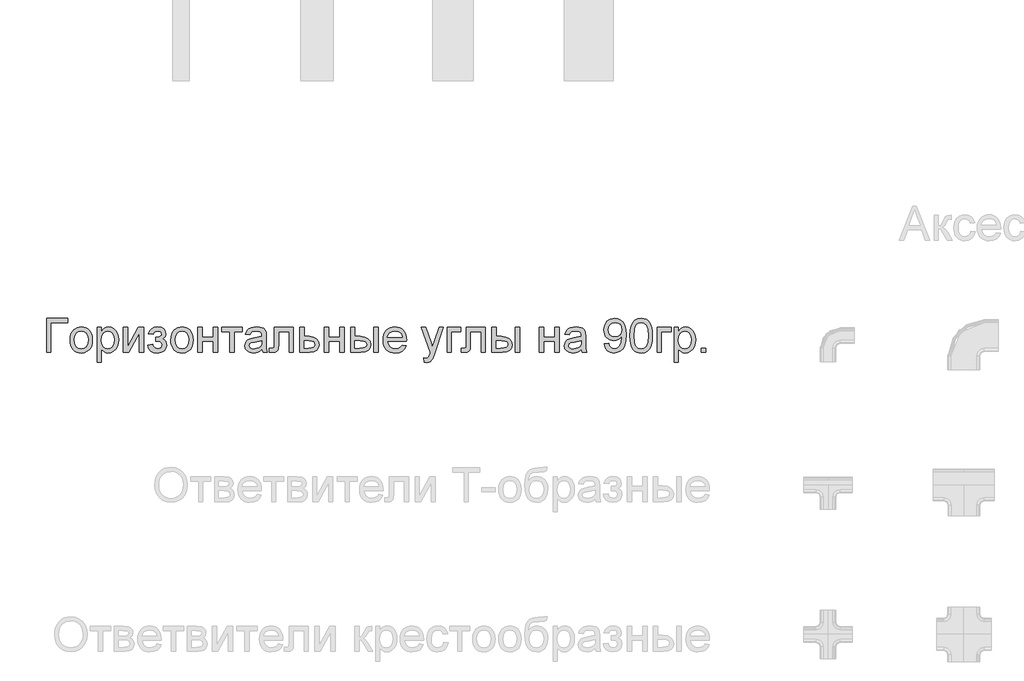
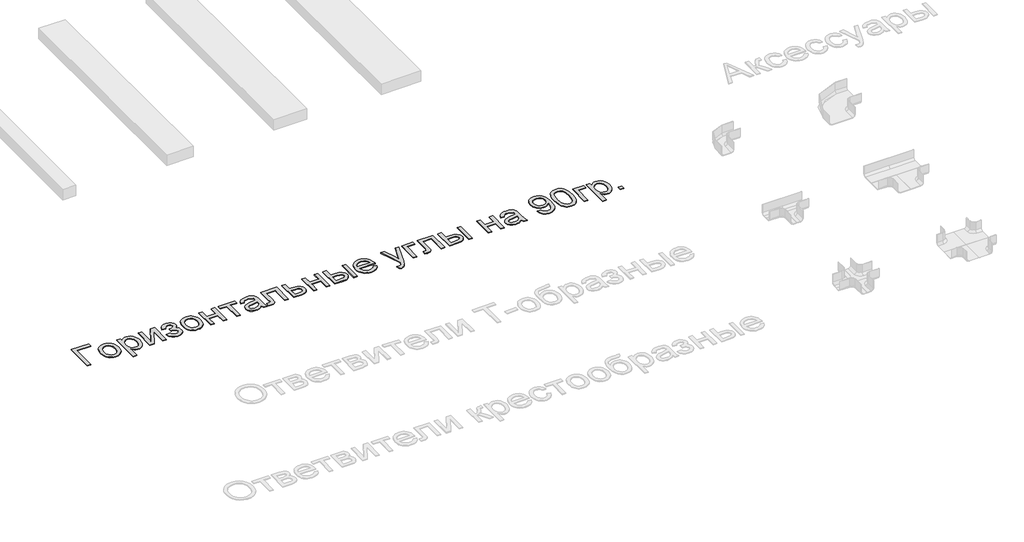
# One storey, part 7 of 11: 1 proxy.
"""IFC4 building model written with IfcOpenShell, lengths in millimetres."""

from ifc_helpers import new_model, si_unit, origin, origin_with_axes, place, context, project, spatial, polyline, outline, extrude, element, save

model = new_model("IFC4")

# Units and contexts
model_context = context("Model", 3, world=origin())
ifc_project = project(units=[si_unit("LENGTHUNIT", "METRE", prefix="MILLI")], contexts=[model_context])

# Site, building, storey
site = spatial("IfcSite", under=ifc_project)
building = spatial("IfcBuilding", under=site)
storey = spatial("IfcBuildingStorey", under=building, Name="Этаж 01", Elevation=0.0)

# Proxy
placement = place(None, origin())
element("IfcBuildingElementProxy", 1, Name="АБН_Маленькая надпись", ObjectType="АБН_Маленькая надпись", at=placement, inside=storey, context=model_context, shape_type="SweptSolid", body=[
    extrude(outline(polyline([(-19468.2542371, 7032.6703326), (-19311.2912525, 7032.6703326), (-19311.2912525, 7001.2777357), (-19436.8616402, 7001.2777357), (-19436.8616402, 6781.5295573), (-19468.2542371, 6781.5295573), (-19468.2542371, 7032.6703326)])), origin_with_axes(), (0.0, 0.0, 1.0), 5.0),
    extrude(outline(polyline([(-19295.5949541, 6873.7453107), (-19293.8973319, 6897.6308157), (-19288.8044656, 6918.2130469), (-19280.3163549, 6935.4920044), (-19268.4330001, 6949.4676881), (-19243.2637402, 6964.7807761), (-19213.1280735, 6969.8851388), (-19195.8088789, 6968.3312206), (-19180.1489854, 6963.6694659), (-19166.1483931, 6955.8998748), (-19153.8071017, 6945.0224473), (-19143.7344161, 6931.4050653), (-19136.5396406, 6915.4156109), (-19132.2227753, 6897.054084), (-19130.7838202, 6876.3204847), (-19133.3283373, 6844.605991), (-19140.9618887, 6820.4637351), (-19153.4622124, 6802.3838679), (-19170.6070462, 6788.8565403), (-19190.9708475, 6780.4182471), (-19213.1280735, 6777.6054827), (-19230.7001869, 6779.1536527), (-19246.5057003, 6783.7981629), (-19260.5446138, 6791.5390132), (-19272.8169272, 6802.3762037), (-19282.7823139, 6816.1257932), (-19289.9004473, 6832.6038409), (-19294.1713274, 6851.8103468), (-19295.5949541, 6873.7453107)]), holes=[polyline([(-19264.2023571, 6873.8066244), (-19260.5695224, 6845.3954045), (-19249.6710183, 6825.1542305), (-19233.2696127, 6813.0371173), (-19213.1280735, 6808.9980796), (-19193.0785047, 6813.0601099), (-19176.7077559, 6825.246201), (-19165.8092518, 6845.7556223), (-19162.1764171, 6874.7876431), (-19165.8322445, 6902.3711285), (-19176.7997264, 6922.3363909), (-19193.1934679, 6934.4535041), (-19213.1280735, 6938.4925419), (-19233.2696127, 6934.4688326), (-19249.6710183, 6922.3977046), (-19260.5695224, 6902.2025159), (-19264.2023571, 6873.8066244)])]), origin_with_axes(), (0.0, 0.0, 1.0), 5.0),
    extrude(outline(polyline([(-19095.4671487, 6710.8962142), (-19095.4671487, 6965.9610642), (-19064.0745518, 6965.9610642), (-19064.0745518, 6935.1816039), (-19053.8351696, 6950.3644004), (-19042.369514, 6961.2092551), (-19029.0031349, 6967.7161679), (-19013.0615818, 6969.8851388), (-18991.831725, 6966.8501123), (-18973.2690126, 6957.745033), (-18958.155194, 6943.1217237), (-18947.2720183, 6923.5320074), (-18940.6961276, 6900.401427), (-18938.5041641, 6875.155525), (-18940.9797033, 6848.3078036), (-18948.4063211, 6824.2958392), (-18960.5464269, 6804.338241), (-18977.1624304, 6789.653618), (-18996.5145562, 6780.6175165), (-19016.863029, 6777.6054827), (-19031.2947331, 6779.6211694), (-19044.1782672, 6785.6682297), (-19064.0745518, 6806.0550236), (-19064.0745518, 6710.8962142), (-19095.4671487, 6710.8962142)]), holes=[polyline([(-19064.0745518, 6872.2737828), (-19060.6793075, 6844.1308101), (-19050.4935748, 6824.4491234), (-19035.4640624, 6812.8608405), (-19017.5374794, 6808.9980796), (-18999.3196564, 6812.9987963), (-18983.9069336, 6825.0009464), (-18973.3993042, 6845.4030687), (-18969.896761, 6874.6037021), (-18973.3149979, 6902.5933905), (-18983.5697085, 6922.5509888), (-18998.5762282, 6934.5071536), (-19016.2498924, 6938.4925419), (-19033.9925344, 6934.2542347), (-19049.5738698, 6921.5393133), (-19060.4493813, 6900.7463163), (-19064.0745518, 6872.2737828)])]), origin_with_axes(), (0.0, 0.0, 1.0), 5.0),
    extrude(outline(polyline([(-18903.1874925, 6965.9610642), (-18871.7948956, 6965.9610642), (-18871.7948956, 6825.3075147), (-18794.662304, 6965.9610642), (-18754.0726572, 6965.9610642), (-18754.0726572, 6781.5295573), (-18785.4652541, 6781.5295573), (-18785.4652541, 6921.3247154), (-18862.1073364, 6781.5295573), (-18903.1874925, 6781.5295573), (-18903.1874925, 6965.9610642)])), origin_with_axes(), (0.0, 0.0, 1.0), 5.0),
    extrude(outline(polyline([(-18663.818941, 6863.9351242), (-18663.818941, 6895.3277211), (-18639.04822, 6896.5539944), (-18626.5402322, 6903.0838998), (-18622.1256482, 6909.2076022), (-18620.6541202, 6916.7261905), (-18622.6238218, 6925.6549931), (-18628.5329263, 6932.5757731), (-18637.5536994, 6937.0133497), (-18648.8584065, 6938.4925419), (-18660.285741, 6937.0210139), (-18669.8583371, 6932.60643), (-18677.5761948, 6925.2487901), (-18683.4393141, 6914.9480942), (-18718.7559856, 6918.8721688), (-18709.3903232, 6941.1903432), (-18695.1502243, 6957.1318963), (-18676.0356889, 6966.6968282), (-18652.0467172, 6969.8851388), (-18625.8044682, 6965.9993852), (-18605.9388404, 6954.3421245), (-18593.4308526, 6937.2892612), (-18589.2615233, 6917.2166998), (-18595.1936205, 6897.7189541), (-18612.989912, 6882.6357923), (-18600.8727988, 6873.9139233), (-18592.2352361, 6863.0767329), (-18587.0618956, 6850.0935641), (-18585.3374487, 6834.9337602), (-18589.7137116, 6811.8261724), (-18602.8425003, 6793.516379), (-18623.8347667, 6781.5832067), (-18651.8014625, 6777.6054827), (-18679.1550217, 6781.2843026), (-18700.0859744, 6792.3207625), (-18714.5943205, 6810.7148622), (-18722.6800602, 6836.4666019), (-18687.3633887, 6840.3906765), (-18682.075085, 6827.1162678), (-18673.1999319, 6817.2141108), (-18661.7649332, 6811.0520874), (-18648.7970929, 6808.9980796), (-18636.1664777, 6810.9677811), (-18625.8657818, 6816.8768856), (-18619.0139797, 6825.8516735), (-18616.7300456, 6837.0184249), (-18622.4015597, 6853.511801), (-18634.4803519, 6862.3409689), (-18657.6875744, 6864.1190652), (-18663.818941, 6863.9351242)])), origin_with_axes(), (0.0, 0.0, 1.0), 5.0),
    extrude(outline(polyline([(-18553.9448518, 6873.7453107), (-18552.2472297, 6897.6308157), (-18547.1543633, 6918.2130469), (-18538.6662527, 6935.4920044), (-18526.7828978, 6949.4676881), (-18501.613638, 6964.7807761), (-18471.4779712, 6969.8851388), (-18454.1587766, 6968.3312206), (-18438.4988832, 6963.6694659), (-18424.4982908, 6955.8998748), (-18412.1569995, 6945.0224473), (-18402.0843138, 6931.4050653), (-18394.8895383, 6915.4156109), (-18390.572673, 6897.054084), (-18389.1337179, 6876.3204847), (-18391.6782351, 6844.605991), (-18399.3117865, 6820.4637351), (-18411.8121101, 6802.3838679), (-18428.9569439, 6788.8565403), (-18449.3207452, 6780.4182471), (-18471.4779712, 6777.6054827), (-18489.0500846, 6779.1536527), (-18504.855598, 6783.7981629), (-18518.8945115, 6791.5390132), (-18531.1668249, 6802.3762037), (-18541.1322117, 6816.1257932), (-18548.2503451, 6832.6038409), (-18552.5212251, 6851.8103468), (-18553.9448518, 6873.7453107)]), holes=[polyline([(-18522.5522549, 6873.8066244), (-18518.9194202, 6845.3954045), (-18508.020916, 6825.1542305), (-18491.6195104, 6813.0371173), (-18471.4779712, 6808.9980796), (-18451.4284025, 6813.0601099), (-18435.0576537, 6825.246201), (-18424.1591496, 6845.7556223), (-18420.5263149, 6874.7876431), (-18424.1821422, 6902.3711285), (-18435.1496242, 6922.3363909), (-18451.5433656, 6934.4535041), (-18471.4779712, 6938.4925419), (-18491.6195104, 6934.4688326), (-18508.020916, 6922.3977046), (-18518.9194202, 6902.2025159), (-18522.5522549, 6873.8066244)])]), origin_with_axes(), (0.0, 0.0, 1.0), 5.0),
    extrude(outline(polyline([(-18353.8170464, 6965.9610642), (-18322.4244495, 6965.9610642), (-18322.4244495, 6895.3277211), (-18240.0188826, 6895.3277211), (-18240.0188826, 6965.9610642), (-18208.6262856, 6965.9610642), (-18208.6262856, 6781.5295573), (-18240.0188826, 6781.5295573), (-18240.0188826, 6863.9351242), (-18322.4244495, 6863.9351242), (-18322.4244495, 6781.5295573), (-18353.8170464, 6781.5295573), (-18353.8170464, 6965.9610642)])), origin_with_axes(), (0.0, 0.0, 1.0), 5.0),
    extrude(outline(polyline([(-18177.2336887, 6965.9610642), (-18028.1188533, 6965.9610642), (-18028.1188533, 6934.5684673), (-18086.9799726, 6934.5684673), (-18086.9799726, 6781.5295573), (-18118.3725695, 6781.5295573), (-18118.3725695, 6934.5684673), (-18177.2336887, 6934.5684673), (-18177.2336887, 6965.9610642)])), origin_with_axes(), (0.0, 0.0, 1.0), 5.0),
    extrude(outline(polyline([(-17882.9280926, 6805.074005), (-17897.9269481, 6792.2134636), (-17913.3703277, 6783.7981629), (-17929.6107849, 6779.1536527), (-17947.0008734, 6777.6054827), (-17973.2354582, 6781.3302879), (-17992.587584, 6792.5047035), (-18004.5207562, 6809.4732605), (-18008.4984803, 6830.58049), (-18006.9962954, 6843.5943155), (-18002.489741, 6855.4125246), (-17986.701472, 6873.4387424), (-17964.7205228, 6883.7394383), (-17937.5585689, 6888.4605905), (-17883.1120336, 6899.2517957), (-17882.9280926, 6906.2415536), (-17885.0893993, 6920.2517263), (-17891.5733195, 6929.4181193), (-17906.0740014, 6936.2239362), (-17926.2768543, 6938.4925419), (-17944.9775224, 6936.9826929), (-17958.0373333, 6932.4531458), (-17966.9431432, 6924.0761662), (-17973.1818087, 6911.0240196), (-18004.5744056, 6914.9480942), (-17999.1251536, 6932.1159206), (-17990.9934287, 6945.6049271), (-17979.4204742, 6955.9209514), (-17963.6475337, 6963.5698312), (-17944.3567216, 6968.3063119), (-17922.2301524, 6969.8851388), (-17901.0079598, 6968.4902529), (-17884.1850227, 6964.3055952), (-17871.5007581, 6958.0132803), (-17862.6945828, 6950.2954226), (-17853.0683373, 6928.9889237), (-17851.5354957, 6901.5204014), (-17851.5354957, 6862.4635962), (-17849.9413403, 6807.9250904), (-17843.6873464, 6781.5295573), (-17875.0799433, 6781.5295573), (-17882.9280926, 6805.074005)]), holes=[polyline([(-17882.9280926, 6867.8591988), (-17933.5731806, 6858.2329533), (-17960.5818504, 6853.143919), (-17972.8139267, 6844.8665741), (-17977.1058833, 6832.7877819), (-17974.7682998, 6823.4527763), (-17967.7555493, 6815.8038965), (-17956.2209159, 6810.6995338), (-17940.3176838, 6808.9980796), (-17923.4564257, 6810.8758106), (-17908.5572049, 6816.5090036), (-17896.4784127, 6824.8093412), (-17888.0784405, 6834.6885056), (-17884.3536353, 6844.8665741), (-17883.1120336, 6858.9687173), (-17882.9280926, 6867.8591988)])]), origin_with_axes(), (0.0, 0.0, 1.0), 5.0),
    extrude(outline(polyline([(-17792.6743764, 6965.9610642), (-17651.4076903, 6965.9610642), (-17651.4076903, 6781.7134983), (-17682.8002872, 6781.7134983), (-17682.8002872, 6934.5684673), (-17761.2817795, 6934.5684673), (-17761.2817795, 6846.5833568), (-17763.397101, 6805.99371), (-17767.3594966, 6796.8043243), (-17775.0160407, 6788.8565403), (-17786.6349803, 6783.361303), (-17802.484563, 6781.5295573), (-17827.991048, 6783.1237126), (-17827.991048, 6812.9221542), (-17813.9502185, 6812.9221542), (-17799.7561048, 6814.8535347), (-17794.0845907, 6820.9849013), (-17792.6743764, 6848.3614531), (-17792.6743764, 6965.9610642)])), origin_with_axes(), (0.0, 0.0, 1.0), 5.0),
    extrude(outline(polyline([(-17604.3187949, 6965.9610642), (-17572.926198, 6965.9610642), (-17572.926198, 6899.2517957), (-17536.7511351, 6899.2517957), (-17505.389195, 6895.3200569), (-17482.1819725, 6883.5248404), (-17467.8345747, 6864.8165081), (-17463.0521087, 6840.1454218), (-17467.1218033, 6817.6816275), (-17479.330887, 6798.7280405), (-17500.491766, 6785.8291781), (-17531.4168462, 6781.5295573), (-17604.3187949, 6781.5295573), (-17604.3187949, 6965.9610642)]), holes=[polyline([(-17572.926198, 6812.9221542), (-17543.6182657, 6812.9221542), (-17520.8785599, 6814.569959), (-17505.757077, 6819.5133733), (-17497.2727985, 6827.9516665), (-17494.4447057, 6840.0841082), (-17496.5370345, 6850.3388188), (-17502.8140211, 6859.3979129), (-17516.2647065, 6865.7438773), (-17539.8781321, 6867.8591988), (-17572.926198, 6867.8591988), (-17572.926198, 6812.9221542)])]), origin_with_axes(), (0.0, 0.0, 1.0), 5.0),
    extrude(outline(polyline([(-17423.8113626, 6965.9610642), (-17392.4187657, 6965.9610642), (-17392.4187657, 6895.3277211), (-17310.0131988, 6895.3277211), (-17310.0131988, 6965.9610642), (-17278.6206018, 6965.9610642), (-17278.6206018, 6781.5295573), (-17310.0131988, 6781.5295573), (-17310.0131988, 6863.9351242), (-17392.4187657, 6863.9351242), (-17392.4187657, 6781.5295573), (-17423.8113626, 6781.5295573), (-17423.8113626, 6965.9610642)])), origin_with_axes(), (0.0, 0.0, 1.0), 5.0),
    extrude(outline(polyline([(-17058.8724234, 6965.9610642), (-17027.4798265, 6965.9610642), (-17027.4798265, 6781.5295573), (-17058.8724234, 6781.5295573), (-17058.8724234, 6965.9610642)])), origin_with_axes(), (0.0, 0.0, 1.0), 5.0),
    extrude(outline(polyline([(-17231.5317064, 6965.9610642), (-17200.1391095, 6965.9610642), (-17200.1391095, 6899.2517957), (-17161.327559, 6899.2517957), (-17127.7813196, 6895.3200569), (-17102.9262923, 6883.5248404), (-17087.5442264, 6864.8165081), (-17082.4168711, 6840.1454218), (-17086.7164919, 6817.6816275), (-17099.6153543, 6798.7280405), (-17121.9565213, 6785.8291781), (-17154.5830558, 6781.5295573), (-17231.5317064, 6781.5295573), (-17231.5317064, 6965.9610642)]), holes=[polyline([(-17200.1391095, 6812.9221542), (-17167.8881213, 6812.9221542), (-17142.887474, 6814.569959), (-17126.2561422, 6819.5133733), (-17116.9211365, 6827.9516665), (-17113.809468, 6840.0841082), (-17116.1163947, 6850.3388188), (-17123.0371747, 6859.3979129), (-17137.8367608, 6865.7438773), (-17163.7801057, 6867.8591988), (-17200.1391095, 6867.8591988), (-17200.1391095, 6812.9221542)])]), origin_with_axes(), (0.0, 0.0, 1.0), 5.0),
    extrude(outline(polyline([(-16851.2643508, 6836.4666019), (-16820.4848905, 6832.5425273), (-16831.5749998, 6809.3506332), (-16849.2716566, 6792.0141941), (-16873.1763221, 6781.2076605), (-16902.8904574, 6777.6054827), (-16922.3690426, 6779.1594009), (-16939.7246422, 6783.8211555), (-16954.9572561, 6791.5907466), (-16968.0668842, 6802.4681742), (-16978.6090027, 6816.1507019), (-16986.1390872, 6832.3355937), (-16990.657138, 6851.0228494), (-16992.1631549, 6872.2124691), (-16990.6418096, 6894.1206083), (-16986.0777736, 6913.430581), (-16978.4710469, 6930.142387), (-16967.8216296, 6944.2560265), (-16954.7464903, 6955.4687631), (-16939.8625979, 6963.4778607), (-16923.1699524, 6968.2833193), (-16904.6685537, 6969.8851388), (-16886.7630472, 6968.2871514), (-16870.5704913, 6963.4931891), (-16856.0908859, 6955.5032521), (-16843.324231, 6944.3173401), (-16832.9028239, 6930.2343575), (-16825.4589616, 6913.5532083), (-16820.9926443, 6894.2738925), (-16819.5038718, 6872.3964101), (-16819.6878128, 6863.9351242), (-16960.770558, 6863.9351242), (-16955.3366344, 6840.4366618), (-16942.7136834, 6823.1615364), (-16924.4958604, 6812.5389438), (-16902.2773208, 6808.9980796), (-16885.5693468, 6810.6382201), (-16871.4978605, 6815.5586418), (-16860.0628618, 6824.065913), (-16851.2643508, 6836.4666019)]), holes=[polyline([(-16960.770558, 6895.3277211), (-16850.8964688, 6895.3277211), (-16855.1424401, 6911.9130677), (-16863.4657703, 6923.7772621), (-16881.7678995, 6934.8137219), (-16904.7911811, 6938.4925419), (-16925.95206, 6935.5571501), (-16943.4494474, 6926.7509749), (-16955.6125459, 6913.0243779), (-16960.770558, 6895.3277211)])]), origin_with_axes(), (0.0, 0.0, 1.0), 5.0),
    extrude(outline(polyline([(-16690.0094095, 6710.8962142), (-16693.9334842, 6741.1238515), (-16677.991931, 6738.3647365), (-16663.0927102, 6741.8289586), (-16653.956974, 6751.485861), (-16645.3730608, 6774.601113), (-16642.9205142, 6782.2040076), (-16709.6297826, 6965.9610642), (-16676.5204031, 6965.9610642), (-16641.1424179, 6863.5672422), (-16628.818371, 6822.6097134), (-16616.4943242, 6858.7847763), (-16580.1353203, 6965.9610642), (-16547.2711954, 6965.9610642), (-16611.4666036, 6777.1149733), (-16628.1439207, 6736.1574445), (-16636.6818487, 6723.0823053), (-16646.3540795, 6714.0232112), (-16657.5898087, 6708.7349075), (-16670.8182321, 6706.9721396), (-16690.0094095, 6710.8962142)])), origin_with_axes(), (0.0, 0.0, 1.0), 5.0),
    extrude(outline(polyline([(-16521.2742011, 6965.9610642), (-16419.2482611, 6965.9610642), (-16419.2482611, 6934.5684673), (-16489.8816042, 6934.5684673), (-16489.8816042, 6781.5295573), (-16521.2742011, 6781.5295573), (-16521.2742011, 6965.9610642)])), origin_with_axes(), (0.0, 0.0, 1.0), 5.0),
    extrude(outline(polyline([(-16380.0075149, 6965.9610642), (-16238.7408288, 6965.9610642), (-16238.7408288, 6781.7134983), (-16270.1334257, 6781.7134983), (-16270.1334257, 6934.5684673), (-16348.614918, 6934.5684673), (-16348.614918, 6846.5833568), (-16350.7302395, 6805.99371), (-16354.6926352, 6796.8043243), (-16362.3491792, 6788.8565403), (-16373.9681189, 6783.361303), (-16389.8177015, 6781.5295573), (-16415.3241865, 6783.1237126), (-16415.3241865, 6812.9221542), (-16401.283357, 6812.9221542), (-16387.0892434, 6814.8535347), (-16381.4177293, 6820.9849013), (-16380.0075149, 6848.3614531), (-16380.0075149, 6965.9610642)])), origin_with_axes(), (0.0, 0.0, 1.0), 5.0),
    extrude(outline(polyline([(-16018.9926503, 6965.9610642), (-15987.6000534, 6965.9610642), (-15987.6000534, 6781.5295573), (-16018.9926503, 6781.5295573), (-16018.9926503, 6965.9610642)])), origin_with_axes(), (0.0, 0.0, 1.0), 5.0),
    extrude(outline(polyline([(-16191.6519334, 6965.9610642), (-16160.2593365, 6965.9610642), (-16160.2593365, 6899.2517957), (-16121.447786, 6899.2517957), (-16087.9015466, 6895.3200569), (-16063.0465193, 6883.5248404), (-16047.6644533, 6864.8165081), (-16042.537098, 6840.1454218), (-16046.8367189, 6817.6816275), (-16059.7355813, 6798.7280405), (-16082.0767483, 6785.8291781), (-16114.7032828, 6781.5295573), (-16191.6519334, 6781.5295573), (-16191.6519334, 6965.9610642)]), holes=[polyline([(-16160.2593365, 6812.9221542), (-16128.0083482, 6812.9221542), (-16103.007701, 6814.569959), (-16086.3763691, 6819.5133733), (-16077.0413635, 6827.9516665), (-16073.929695, 6840.0841082), (-16076.2366216, 6850.3388188), (-16083.1574017, 6859.3979129), (-16097.9569878, 6865.7438773), (-16123.9003326, 6867.8591988), (-16160.2593365, 6867.8591988), (-16160.2593365, 6812.9221542)])]), origin_with_axes(), (0.0, 0.0, 1.0), 5.0),
    extrude(outline(polyline([(-15842.4092927, 6965.9610642), (-15811.0166957, 6965.9610642), (-15811.0166957, 6895.3277211), (-15728.6111288, 6895.3277211), (-15728.6111288, 6965.9610642), (-15697.2185319, 6965.9610642), (-15697.2185319, 6781.5295573), (-15728.6111288, 6781.5295573), (-15728.6111288, 6863.9351242), (-15811.0166957, 6863.9351242), (-15811.0166957, 6781.5295573), (-15842.4092927, 6781.5295573), (-15842.4092927, 6965.9610642)])), origin_with_axes(), (0.0, 0.0, 1.0), 5.0),
    extrude(outline(polyline([(-15532.4073981, 6805.074005), (-15547.4062536, 6792.2134636), (-15562.8496332, 6783.7981629), (-15579.0900904, 6779.1536527), (-15596.4801789, 6777.6054827), (-15622.7147637, 6781.3302879), (-15642.0668895, 6792.5047035), (-15654.0000617, 6809.4732605), (-15657.9777857, 6830.58049), (-15656.4756009, 6843.5943155), (-15651.9690465, 6855.4125246), (-15636.1807775, 6873.4387424), (-15614.1998283, 6883.7394383), (-15587.0378743, 6888.4605905), (-15532.5913391, 6899.2517957), (-15532.4073981, 6906.2415536), (-15534.5687048, 6920.2517263), (-15541.0526249, 6929.4181193), (-15555.5533069, 6936.2239362), (-15575.7561598, 6938.4925419), (-15594.4568279, 6936.9826929), (-15607.5166387, 6932.4531458), (-15616.4224487, 6924.0761662), (-15622.6611142, 6911.0240196), (-15654.0537111, 6914.9480942), (-15648.6044591, 6932.1159206), (-15640.4727341, 6945.6049271), (-15628.8997797, 6955.9209514), (-15613.1268392, 6963.5698312), (-15593.836027, 6968.3063119), (-15571.7094579, 6969.8851388), (-15550.4872653, 6968.4902529), (-15533.6643282, 6964.3055952), (-15520.9800636, 6958.0132803), (-15512.1738883, 6950.2954226), (-15502.5476428, 6928.9889237), (-15501.0148011, 6901.5204014), (-15501.0148011, 6862.4635962), (-15499.4206458, 6807.9250904), (-15493.1666519, 6781.5295573), (-15524.5592488, 6781.5295573), (-15532.4073981, 6805.074005)]), holes=[polyline([(-15532.4073981, 6867.8591988), (-15583.0524861, 6858.2329533), (-15610.0611559, 6853.143919), (-15622.2932322, 6844.8665741), (-15626.5851888, 6832.7877819), (-15624.2476053, 6823.4527763), (-15617.2348548, 6815.8038965), (-15605.7002214, 6810.6995338), (-15589.7969893, 6808.9980796), (-15572.9357312, 6810.8758106), (-15558.0365104, 6816.5090036), (-15545.9577182, 6824.8093412), (-15537.557746, 6834.6885056), (-15533.8329408, 6844.8665741), (-15532.5913391, 6858.9687173), (-15532.4073981, 6867.8591988)])]), origin_with_axes(), (0.0, 0.0, 1.0), 5.0),
    extrude(outline(polyline([(-15363.6721896, 6844.3147511), (-15332.2795927, 6848.2388257), (-15326.9146469, 6830.4195416), (-15318.1774495, 6818.2871), (-15306.2825984, 6811.3203347), (-15291.4446912, 6808.9980796), (-15278.1319615, 6810.4926002), (-15266.0301767, 6814.976162), (-15255.9747355, 6821.9582557), (-15248.8010366, 6830.948372), (-15238.5309976, 6858.2329533), (-15233.9937863, 6894.6532708), (-15234.1777273, 6900.7846374), (-15245.0532388, 6887.5102287), (-15259.2856735, 6876.994935), (-15275.8480275, 6870.1431329), (-15293.7132969, 6867.8591988), (-15322.3391146, 6873.4387424), (-15346.167138, 6890.1773732), (-15355.5423807, 6902.2216764), (-15362.2389827, 6916.0364118), (-15367.5962642, 6948.9771787), (-15361.9783996, 6983.0062633), (-15354.9560688, 6997.2616906), (-15345.1248057, 7009.677708), (-15333.1782211, 7019.7369813), (-15319.8099259, 7026.9221765), (-15288.8082036, 7032.6703326), (-15265.3940474, 7029.3900515), (-15244.0798843, 7019.5492082), (-15226.252936, 7003.6383119), (-15213.3004241, 6982.147872), (-15205.4139538, 6952.4414009), (-15202.7851304, 6911.8824109), (-15205.4062896, 6868.8785385), (-15213.2697672, 6835.6388674), (-15226.3065854, 6810.6612128), (-15244.4477663, 6792.4433898), (-15266.9115607, 6781.3149594), (-15292.9162192, 6777.6054827), (-15319.7562764, 6781.9817456), (-15341.1700742, 6795.1105343), (-15356.1459371, 6816.1641143), (-15363.6721896, 6844.3147511)]), holes=[polyline([(-15234.1777273, 6949.7129427), (-15237.5653073, 6970.9887848), (-15247.7280475, 6987.3595336), (-15263.500988, 6997.7981852), (-15283.7191693, 7001.2777357), (-15304.688443, 6997.5299379), (-15321.4883875, 6986.2865444), (-15332.5248473, 6969.0803969), (-15336.2036673, 6947.4443371), (-15332.7241168, 6928.0462261), (-15322.2854651, 6912.6488317), (-15305.8993879, 6902.6010547), (-15284.5775606, 6899.2517957), (-15264.5203277, 6902.6010547), (-15248.3718409, 6912.6488317), (-15237.7262557, 6928.6133775), (-15234.1777273, 6949.7129427)])]), origin_with_axes(), (0.0, 0.0, 1.0), 5.0),
    extrude(outline(polyline([(-15175.3166081, 6905.076594), (-15173.0096814, 6945.2753662), (-15166.0889014, 6977.3347492), (-15154.6232458, 7001.7452524), (-15138.6816927, 7018.9973852), (-15118.1492789, 7029.2520958), (-15092.9110412, 7032.6703326), (-15073.5665796, 7030.6469817), (-15056.245469, 7024.5769288), (-15041.7601154, 7014.6977643), (-15030.922925, 7001.2470789), (-15016.2076452, 6964.0909974), (-15011.931017, 6938.3775788), (-15010.5054742, 6905.076594), (-15012.7894083, 6865.1077481), (-15019.6412104, 6833.1250071), (-15031.0378881, 6808.6915113), (-15046.9564486, 6791.3704006), (-15067.5348477, 6781.0467122), (-15092.9110412, 6777.6054827), (-15110.2014949, 6779.1000033), (-15125.5299114, 6783.5835651), (-15138.8962906, 6791.0561681), (-15150.3006324, 6801.5178123), (-15161.2451218, 6820.4292462), (-15169.0626142, 6843.9928544), (-15173.7531096, 6872.208637), (-15175.3166081, 6905.076594)]), holes=[polyline([(-15143.9240112, 6905.1379077), (-15140.2451912, 6855.757414), (-15135.6466663, 6838.8674151), (-15129.2087313, 6827.1775815), (-15112.7766689, 6813.5429551), (-15092.9110412, 6808.9980796), (-15073.0454134, 6813.5582835), (-15056.613351, 6827.2388952), (-15050.175416, 6838.9478893), (-15045.5768911, 6855.8340561), (-15041.8980712, 6905.1379077), (-15045.4542638, 6953.4070911), (-15049.8995046, 6970.2415245), (-15056.1228416, 6982.2091856), (-15072.5242473, 6996.5105982), (-15093.2789231, 7001.2777357), (-15112.9299531, 6997.0777496), (-15128.718222, 6984.4777913), (-15135.3707548, 6971.4486373), (-15140.1225639, 6953.882272), (-15143.9240112, 6905.1379077)])]), origin_with_axes(), (0.0, 0.0, 1.0), 5.0),
    extrude(outline(polyline([(-14975.1888027, 6965.9610642), (-14873.1628627, 6965.9610642), (-14873.1628627, 6934.5684673), (-14943.7962058, 6934.5684673), (-14943.7962058, 6781.5295573), (-14975.1888027, 6781.5295573), (-14975.1888027, 6965.9610642)])), origin_with_axes(), (0.0, 0.0, 1.0), 5.0),
    extrude(outline(polyline([(-14849.618415, 6710.8962142), (-14849.618415, 6965.9610642), (-14818.2258181, 6965.9610642), (-14818.2258181, 6935.1816039), (-14807.9864359, 6950.3644004), (-14796.5207804, 6961.2092551), (-14783.1544012, 6967.7161679), (-14767.2128481, 6969.8851388), (-14745.9829913, 6966.8501123), (-14727.4202789, 6957.745033), (-14712.3064603, 6943.1217237), (-14701.4232846, 6923.5320074), (-14694.847394, 6900.401427), (-14692.6554304, 6875.155525), (-14695.1309697, 6848.3078036), (-14702.5575874, 6824.2958392), (-14714.6976933, 6804.338241), (-14731.3136967, 6789.653618), (-14750.6658225, 6780.6175165), (-14771.0142954, 6777.6054827), (-14785.4459995, 6779.6211694), (-14798.3295335, 6785.6682297), (-14818.2258181, 6806.0550236), (-14818.2258181, 6710.8962142), (-14849.618415, 6710.8962142)]), holes=[polyline([(-14818.2258181, 6872.2737828), (-14814.8305738, 6844.1308101), (-14804.6448411, 6824.4491234), (-14789.6153288, 6812.8608405), (-14771.6887457, 6808.9980796), (-14753.4709227, 6812.9987963), (-14738.0582, 6825.0009464), (-14727.5505705, 6845.4030687), (-14724.0480273, 6874.6037021), (-14727.4662642, 6902.5933905), (-14737.7209748, 6922.5509888), (-14752.7274945, 6934.5071536), (-14770.4011587, 6938.4925419), (-14788.1438008, 6934.2542347), (-14803.7251361, 6921.5393133), (-14814.6006476, 6900.7463163), (-14818.2258181, 6872.2737828)])]), origin_with_axes(), (0.0, 0.0, 1.0), 5.0),
    extrude(outline(polyline([(-14649.4906096, 6781.5295573), (-14649.4906096, 6812.9221542), (-14618.0980127, 6812.9221542), (-14618.0980127, 6781.5295573), (-14649.4906096, 6781.5295573)])), origin_with_axes(), (0.0, 0.0, 1.0), 5.0),
])

save(model, "model.ifc")
